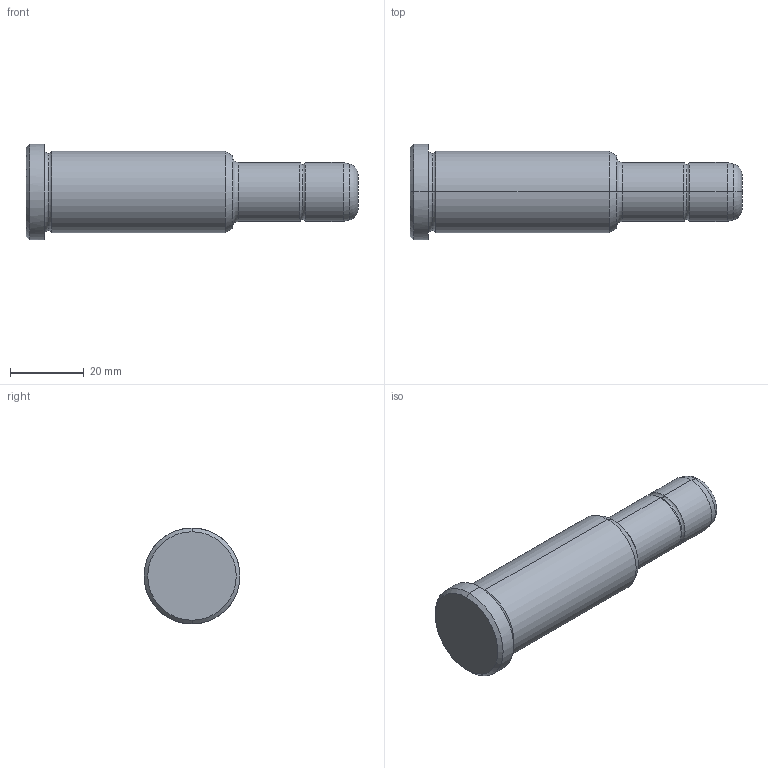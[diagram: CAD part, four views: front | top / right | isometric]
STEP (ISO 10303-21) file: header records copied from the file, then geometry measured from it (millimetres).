
FILE_DESCRIPTION(('CATIA V5 STEP Exchange'),'2;1');
FILE_NAME('C:\Users\Utente\Desktop\IO LAVORO\3D X SITO CF\X SITO\PLASTICA\351\351-16X56X90.stp','2021-08-18T12:26:12+00:00',('none'),('none'),'CATIA Version 5 Release 20 GA (IN-10)','CATIA V5 STEP AP203','none');
FILE_SCHEMA(('CONFIG_CONTROL_DESIGN'));
Length unit declared in the file: millimetre
Products named in the file (1): 351-16X56X90
Bounding box: 90 x 26 x 26 mm (x, y, z)
Volume: 28566 mm3; surface area: 6507.3 mm2
Topology: 1 solids, 1 shells, 30 faces, 86 edges, 60 vertices
Faces by surface type: torus 12, cylinder 8, cone 6, plane 4
Entity records: 1112 total; most frequent: CARTESIAN_POINT 289, ORIENTED_EDGE 172, DIRECTION 138, AXIS2_PLACEMENT_3D 95, EDGE_CURVE 86, CIRCLE 64, VERTEX_POINT 60, EDGE_LOOP 32
